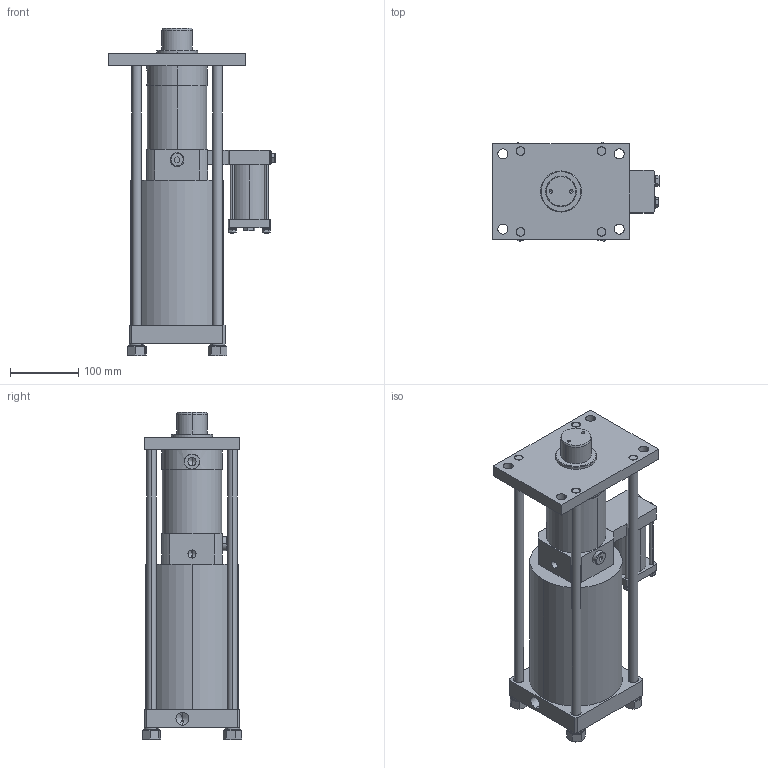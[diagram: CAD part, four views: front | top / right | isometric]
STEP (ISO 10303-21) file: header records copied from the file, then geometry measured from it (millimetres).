
FILE_DESCRIPTION (( 'STEP AP203' ), '1' );
FILE_NAME ('PCS5 12545 VC13.STEP', '2016-02-19T10:27:33', ( 'Admin' ), ( '' ), 'SwSTEP 2.0', 'SolidWorks 2015', '' );
FILE_SCHEMA (( 'CONFIG_CONTROL_DESIGN' ));
Length unit declared in the file: millimetre
Products named in the file (8): hexagon fit bolt_is_IS 3640 - M8 x 25 x 14.5-N; spring lock washer 3063_is_IS 3063- 6-A; hexagon nut style 1_is_IS 1364-3 - M6-W-N; spring lock washer 6735_is_IS 6735- 14; hex nut heavy_am_B18.2.4.6M - Heavy hex nut,  M14 x 2 --W-N; PCS5 12545 VC13; PCS5 12545_PCS5 12545 VC13; plain washer (type a)_is_IS 2016 A- 9
Assembly tree (21 placements, depth 2):
  PCS5 12545 VC13
    PCS5 12545_PCS5 12545 VC13
    plain washer (type a)_is_IS 2016 A- 9  x2
    hexagon fit bolt_is_IS 3640 - M8 x 25 x 14.5-N  x2
    spring lock washer 3063_is_IS 3063- 6-A  x4
    hexagon nut style 1_is_IS 1364-3 - M6-W-N  x4
    spring lock washer 6735_is_IS 6735- 14  x4
    hex nut heavy_am_B18.2.4.6M - Heavy hex nut,  M14 x 2 --W-N  x4
Bounding box: 243.6 x 145.34 x 478.3 mm (x, y, z)
Volume: 5949911.6 mm3; surface area: 419461.9 mm2
Topology: 22 solids, 22 shells, 643 faces, 1536 edges, 963 vertices
Faces by surface type: plane 269, cylinder 200, cone 138, bspline 36
Entity records: 11443 total; most frequent: CARTESIAN_POINT 2279, DIRECTION 1743, ORIENTED_EDGE 1586, EDGE_CURVE 793, AXIS2_PLACEMENT_3D 680, VERTEX_POINT 512, EDGE_LOOP 403, VECTOR 383
